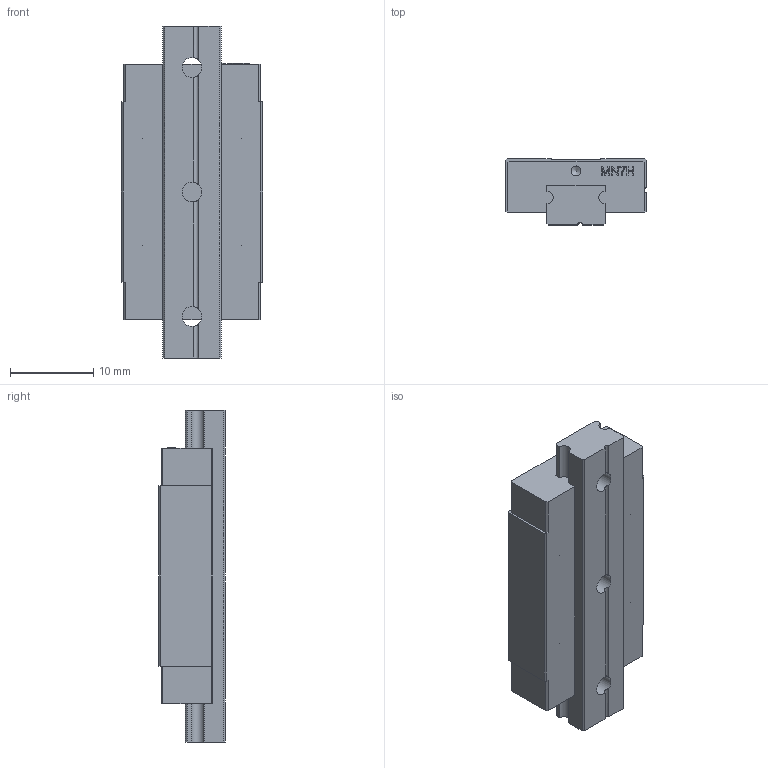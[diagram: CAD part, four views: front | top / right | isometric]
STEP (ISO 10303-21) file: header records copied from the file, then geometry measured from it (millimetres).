
FILE_DESCRIPTION(/* description */ (''),/* implementation_level */ '2;1');
FILE_NAME(/* name */ 'MGN7H.stp',/* time_stamp */ '2021-05-18T23:24:37+08:00',/* author */ (''),/* organization */ (''),/* preprocessor_version */ 'ST-DEVELOPER v15',/* originating_system */ 'SIEMENS PLM Software NX 8.5',/* authorisation */ '');
FILE_SCHEMA (('CONFIG_CONTROL_DESIGN'));
Length unit declared in the file: millimetre
Products named in the file (1): _model3
Bounding box: 17 x 8 x 40 mm (x, y, z)
Volume: 3716.7 mm3; surface area: 3213.5 mm2
Topology: 2 solids, 2 shells, 133 faces, 367 edges, 242 vertices
Faces by surface type: plane 98, cylinder 21, extrusion 8, cone 6
Full cylindrical faces by diameter (mm): 1.2 x2, 1.6 x4, 2.4 x3, 4.2 x3
Entity records: 4417 total; most frequent: CARTESIAN_POINT 1205, ORIENTED_EDGE 680, DIRECTION 541, EDGE_CURVE 340, VERTEX_POINT 239, VECTOR 207, LINE 199, AXIS2_PLACEMENT_3D 167
